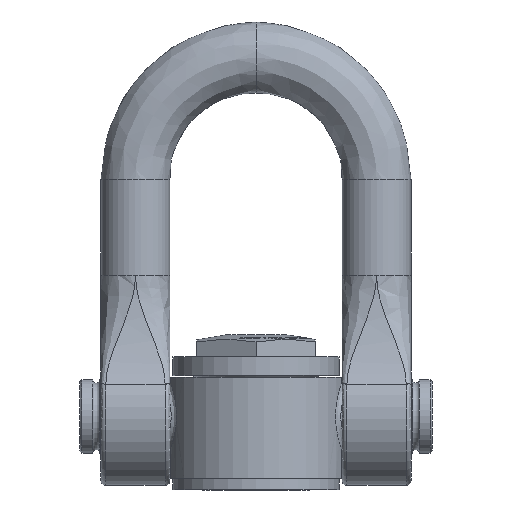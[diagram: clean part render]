
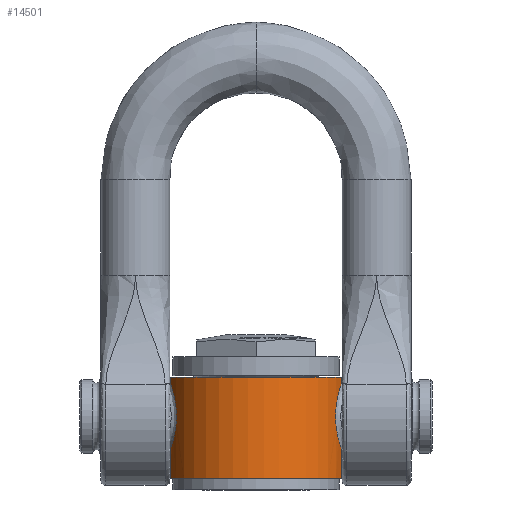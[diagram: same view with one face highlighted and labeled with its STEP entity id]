
A CAD part, left-side view. The second image highlights one B-rep face of the part: STEP entity #14501.
In plain terms, the highlighted cylindrical face has radius 37.5 mm (diameter 75 mm), a partial arc.
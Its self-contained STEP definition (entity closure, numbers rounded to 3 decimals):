
#1329=LINE('',#31544,#2079);
#1333=LINE('',#31910,#2083);
#1335=LINE('',#31914,#2085);
#1336=LINE('',#31916,#2086);
#2079=VECTOR('',#18930,10.);
#2083=VECTOR('',#19016,10.);
#2085=VECTOR('',#19022,10.);
#2086=VECTOR('',#19025,10.);
#2179=ELLIPSE('',#15779,17.07,15.009);
#2180=ELLIPSE('',#15780,17.07,15.009);
#2183=ELLIPSE('',#15783,17.07,15.009);
#2184=ELLIPSE('',#15784,17.07,15.009);
#2249=CYLINDRICAL_SURFACE('',#15804,37.5);
#3046=FACE_OUTER_BOUND('',#3946,.T.);
#3946=EDGE_LOOP('',(#13294,#13295,#13296,#13297,#13298,#13299,#13300,#13301,
#13302,#13303,#13304,#13305,#13306,#13307,#13308,#13309));
#4596=CIRCLE('',#15793,37.5);
#4600=CIRCLE('',#15799,37.5);
#5282=B_SPLINE_CURVE_WITH_KNOTS('',3,(#31371,#31372,#31373,#31374,#31375,
#31376,#31377,#31378),.UNSPECIFIED.,.F.,.F.,(4,2,2,4),(1.872,
1.928,1.992,1.994),.UNSPECIFIED.);
#5287=B_SPLINE_CURVE_WITH_KNOTS('',3,(#31438,#31439,#31440,#31441,#31442,
#31443,#31444,#31445),.UNSPECIFIED.,.F.,.F.,(4,2,2,4),(1.268,
1.288,1.331,1.348),.UNSPECIFIED.);
#5297=B_SPLINE_CURVE_WITH_KNOTS('',3,(#31533,#31534,#31535,#31536,#31537,
#31538),.UNSPECIFIED.,.F.,.F.,(4,2,4),(1.948,2.012,
2.057),.UNSPECIFIED.);
#5298=B_SPLINE_CURVE_WITH_KNOTS('',3,(#31548,#31549,#31550,#31551,#31552,
#31553,#31554,#31555),.UNSPECIFIED.,.F.,.F.,(4,2,2,4),(1.268,
1.288,1.331,1.348),.UNSPECIFIED.);
#5308=B_SPLINE_CURVE_WITH_KNOTS('',3,(#31701,#31702,#31703,#31704,#31705,
#31706,#31707,#31708,#31709),.UNSPECIFIED.,.F.,.F.,(4,1,1,1,1,1,4),(-13.112,
-12.433,-12.192,-11.709,-11.226,
-10.743,-9.823),.UNSPECIFIED.);
#5310=B_SPLINE_CURVE_WITH_KNOTS('',3,(#31817,#31818,#31819,#31820,#31821,
#31822,#31823,#31824,#31825),.UNSPECIFIED.,.F.,.F.,(4,1,1,1,1,1,4),(-13.112,
-12.433,-12.192,-11.709,-11.226,
-10.743,-9.823),.UNSPECIFIED.);
#6714=VERTEX_POINT('',#31314);
#6720=VERTEX_POINT('',#31369);
#6728=VERTEX_POINT('',#31424);
#6729=VERTEX_POINT('',#31437);
#6738=VERTEX_POINT('',#31496);
#6741=VERTEX_POINT('',#31531);
#6743=VERTEX_POINT('',#31542);
#6744=VERTEX_POINT('',#31546);
#6745=VERTEX_POINT('',#31547);
#6761=VERTEX_POINT('',#31698);
#6762=VERTEX_POINT('',#31700);
#6765=VERTEX_POINT('',#31814);
#6766=VERTEX_POINT('',#31816);
#6772=VERTEX_POINT('',#31894);
#6773=VERTEX_POINT('',#31896);
#6776=VERTEX_POINT('',#31906);
#8885=EDGE_CURVE('',#6720,#6714,#5282,.T.);
#8894=EDGE_CURVE('',#6729,#6728,#5287,.F.);
#8910=EDGE_CURVE('',#6741,#6738,#5297,.T.);
#8913=EDGE_CURVE('',#6741,#6743,#1329,.T.);
#8914=EDGE_CURVE('',#6744,#6745,#5298,.F.);
#8933=EDGE_CURVE('',#6738,#6761,#2179,.F.);
#8934=EDGE_CURVE('',#6761,#6762,#5308,.T.);
#8935=EDGE_CURVE('',#6728,#6762,#2180,.T.);
#8939=EDGE_CURVE('',#6714,#6765,#2183,.F.);
#8940=EDGE_CURVE('',#6765,#6766,#5310,.T.);
#8941=EDGE_CURVE('',#6745,#6766,#2184,.T.);
#8949=EDGE_CURVE('',#6772,#6773,#4596,.T.);
#8955=EDGE_CURVE('',#6776,#6743,#4600,.T.);
#8956=EDGE_CURVE('',#6772,#6729,#1333,.T.);
#8958=EDGE_CURVE('',#6776,#6744,#1335,.T.);
#8959=EDGE_CURVE('',#6720,#6773,#1336,.T.);
#13294=ORIENTED_EDGE('',*,*,#8934,.F.);
#13295=ORIENTED_EDGE('',*,*,#8933,.F.);
#13296=ORIENTED_EDGE('',*,*,#8910,.F.);
#13297=ORIENTED_EDGE('',*,*,#8913,.T.);
#13298=ORIENTED_EDGE('',*,*,#8955,.F.);
#13299=ORIENTED_EDGE('',*,*,#8958,.T.);
#13300=ORIENTED_EDGE('',*,*,#8914,.T.);
#13301=ORIENTED_EDGE('',*,*,#8941,.T.);
#13302=ORIENTED_EDGE('',*,*,#8940,.F.);
#13303=ORIENTED_EDGE('',*,*,#8939,.F.);
#13304=ORIENTED_EDGE('',*,*,#8885,.F.);
#13305=ORIENTED_EDGE('',*,*,#8959,.T.);
#13306=ORIENTED_EDGE('',*,*,#8949,.F.);
#13307=ORIENTED_EDGE('',*,*,#8956,.T.);
#13308=ORIENTED_EDGE('',*,*,#8894,.T.);
#13309=ORIENTED_EDGE('',*,*,#8935,.T.);
#14501=ADVANCED_FACE('',(#3046),#2249,.T.);
#15779=AXIS2_PLACEMENT_3D('',#31699,#18969,#18970);
#15780=AXIS2_PLACEMENT_3D('',#31710,#18971,#18972);
#15783=AXIS2_PLACEMENT_3D('',#31815,#18977,#18978);
#15784=AXIS2_PLACEMENT_3D('',#31826,#18979,#18980);
#15793=AXIS2_PLACEMENT_3D('',#31897,#18998,#18999);
#15799=AXIS2_PLACEMENT_3D('',#31908,#19012,#19013);
#15804=AXIS2_PLACEMENT_3D('',#31917,#19026,#19027);
#18930=DIRECTION('',(0.,0.,-1.));
#18969=DIRECTION('center_axis',(0.093,-0.97,-0.224));
#18970=DIRECTION('ref_axis',(0.374,0.243,-0.895));
#18971=DIRECTION('center_axis',(0.093,-0.97,0.224));
#18972=DIRECTION('ref_axis',(-0.374,-0.243,-0.895));
#18977=DIRECTION('center_axis',(0.093,0.97,0.224));
#18978=DIRECTION('ref_axis',(0.374,-0.243,0.895));
#18979=DIRECTION('center_axis',(0.093,0.97,-0.224));
#18980=DIRECTION('ref_axis',(-0.374,0.243,0.895));
#18998=DIRECTION('center_axis',(0.,0.,1.));
#18999=DIRECTION('ref_axis',(-1.,0.,0.));
#19012=DIRECTION('center_axis',(0.,0.,-1.));
#19013=DIRECTION('ref_axis',(-1.,0.,0.));
#19016=DIRECTION('',(0.,0.,-1.));
#19022=DIRECTION('',(0.,0.,1.));
#19025=DIRECTION('',(0.,0.,1.));
#19026=DIRECTION('center_axis',(0.,0.,1.));
#19027=DIRECTION('ref_axis',(-1.,0.,0.));
#31314=CARTESIAN_POINT('',(-10.379,-36.035,40.193));
#31369=CARTESIAN_POINT('',(-10.5,-36.,40.62));
#31371=CARTESIAN_POINT('Ctrl Pts',(-10.5,-36.,40.62));
#31372=CARTESIAN_POINT('Ctrl Pts',(-10.5,-36.,40.549));
#31373=CARTESIAN_POINT('Ctrl Pts',(-10.493,-36.002,
40.479));
#31374=CARTESIAN_POINT('Ctrl Pts',(-10.458,-36.012,
40.333));
#31375=CARTESIAN_POINT('Ctrl Pts',(-10.428,-36.021,40.261));
#31376=CARTESIAN_POINT('Ctrl Pts',(-10.381,-36.034,
40.195));
#31377=CARTESIAN_POINT('Ctrl Pts',(-10.38,-36.035,
40.194));
#31378=CARTESIAN_POINT('Ctrl Pts',(-10.379,-36.035,
40.193));
#31424=CARTESIAN_POINT('',(-10.379,36.035,40.193));
#31437=CARTESIAN_POINT('',(-10.5,36.,40.62));
#31438=CARTESIAN_POINT('Ctrl Pts',(-10.379,36.035,40.193));
#31439=CARTESIAN_POINT('Ctrl Pts',(-10.401,36.029,40.223));
#31440=CARTESIAN_POINT('Ctrl Pts',(-10.42,36.023,40.255));
#31441=CARTESIAN_POINT('Ctrl Pts',(-10.469,36.009,40.363));
#31442=CARTESIAN_POINT('Ctrl Pts',(-10.488,36.004,40.443));
#31443=CARTESIAN_POINT('Ctrl Pts',(-10.499,36.,40.556));
#31444=CARTESIAN_POINT('Ctrl Pts',(-10.5,36.,40.588));
#31445=CARTESIAN_POINT('Ctrl Pts',(-10.5,36.,40.62));
#31496=CARTESIAN_POINT('',(-10.379,36.035,11.807));
#31531=CARTESIAN_POINT('',(-10.5,36.,11.38));
#31533=CARTESIAN_POINT('Ctrl Pts',(-10.5,36.,11.38));
#31534=CARTESIAN_POINT('Ctrl Pts',(-10.5,36.,11.469));
#31535=CARTESIAN_POINT('Ctrl Pts',(-10.489,36.003,11.558));
#31536=CARTESIAN_POINT('Ctrl Pts',(-10.443,36.017,11.702));
#31537=CARTESIAN_POINT('Ctrl Pts',(-10.415,36.025,11.757));
#31538=CARTESIAN_POINT('Ctrl Pts',(-10.379,36.035,11.807));
#31542=CARTESIAN_POINT('',(-10.5,36.,0.));
#31544=CARTESIAN_POINT('',(-10.5,36.,0.));
#31546=CARTESIAN_POINT('',(-10.5,-36.,11.38));
#31547=CARTESIAN_POINT('',(-10.379,-36.035,11.807));
#31548=CARTESIAN_POINT('Ctrl Pts',(-10.379,-36.035,
11.807));
#31549=CARTESIAN_POINT('Ctrl Pts',(-10.401,-36.029,
11.777));
#31550=CARTESIAN_POINT('Ctrl Pts',(-10.42,-36.023,11.745));
#31551=CARTESIAN_POINT('Ctrl Pts',(-10.469,-36.009,
11.637));
#31552=CARTESIAN_POINT('Ctrl Pts',(-10.488,-36.004,
11.557));
#31553=CARTESIAN_POINT('Ctrl Pts',(-10.499,-36.,
11.444));
#31554=CARTESIAN_POINT('Ctrl Pts',(-10.5,-36.,11.412));
#31555=CARTESIAN_POINT('Ctrl Pts',(-10.5,-36.,11.38));
#31698=CARTESIAN_POINT('',(-10.5,36.,11.909));
#31699=CARTESIAN_POINT('Origin',(-1.565,33.962,24.447));
#31700=CARTESIAN_POINT('',(-10.5,36.,40.091));
#31701=CARTESIAN_POINT('Ctrl Pts',(-10.5,36.,11.909));
#31702=CARTESIAN_POINT('Ctrl Pts',(-12.119,35.527,13.282));
#31703=CARTESIAN_POINT('Ctrl Pts',(-13.982,34.822,15.566));
#31704=CARTESIAN_POINT('Ctrl Pts',(-15.92,33.964,19.672));
#31705=CARTESIAN_POINT('Ctrl Pts',(-16.924,33.465,23.558));
#31706=CARTESIAN_POINT('Ctrl Pts',(-16.925,33.463,28.443));
#31707=CARTESIAN_POINT('Ctrl Pts',(-15.354,34.246,34.515));
#31708=CARTESIAN_POINT('Ctrl Pts',(-12.695,35.359,38.229));
#31709=CARTESIAN_POINT('Ctrl Pts',(-10.5,36.,40.091));
#31710=CARTESIAN_POINT('Origin',(-1.564,33.962,27.553));
#31814=CARTESIAN_POINT('',(-10.5,-36.,40.091));
#31815=CARTESIAN_POINT('Origin',(-1.565,-33.962,27.553));
#31816=CARTESIAN_POINT('',(-10.5,-36.,11.909));
#31817=CARTESIAN_POINT('Ctrl Pts',(-10.5,-36.,
40.091));
#31818=CARTESIAN_POINT('Ctrl Pts',(-12.119,-35.527,
38.718));
#31819=CARTESIAN_POINT('Ctrl Pts',(-13.982,-34.822,
36.434));
#31820=CARTESIAN_POINT('Ctrl Pts',(-15.92,-33.964,
32.328));
#31821=CARTESIAN_POINT('Ctrl Pts',(-16.924,-33.465,
28.442));
#31822=CARTESIAN_POINT('Ctrl Pts',(-16.925,-33.463,23.557));
#31823=CARTESIAN_POINT('Ctrl Pts',(-15.354,-34.246,
17.485));
#31824=CARTESIAN_POINT('Ctrl Pts',(-12.695,-35.359,
13.771));
#31825=CARTESIAN_POINT('Ctrl Pts',(-10.5,-36.,
11.909));
#31826=CARTESIAN_POINT('Origin',(-1.565,-33.962,24.447));
#31894=CARTESIAN_POINT('',(-10.5,36.,42.5));
#31896=CARTESIAN_POINT('',(-10.5,-36.,42.5));
#31897=CARTESIAN_POINT('Origin',(0.,0.,42.5));
#31906=CARTESIAN_POINT('',(-10.5,-36.,0.));
#31908=CARTESIAN_POINT('Origin',(0.,0.,0.));
#31910=CARTESIAN_POINT('',(-10.5,36.,0.));
#31914=CARTESIAN_POINT('',(-10.5,-36.,0.));
#31916=CARTESIAN_POINT('',(-10.5,-36.,0.));
#31917=CARTESIAN_POINT('Origin',(0.,0.,0.));
